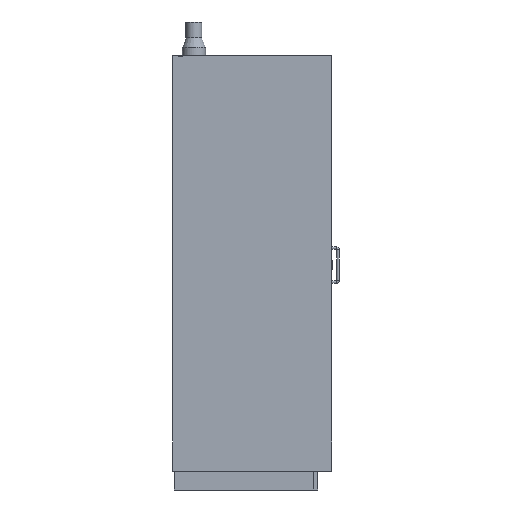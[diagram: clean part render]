
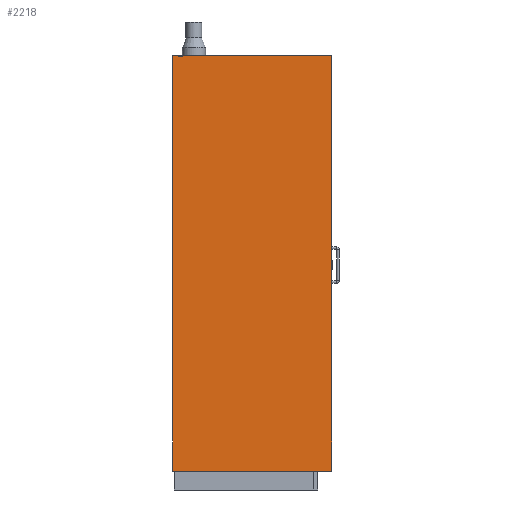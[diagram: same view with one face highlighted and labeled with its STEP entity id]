
A CAD part, left-side view. The second image highlights one B-rep face of the part: STEP entity #2218.
In plain terms, the highlighted planar face has unit normal (-1, 0, 0).
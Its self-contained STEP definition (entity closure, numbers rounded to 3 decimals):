
#111=LINE('',#3023,#291);
#115=LINE('',#3032,#295);
#147=LINE('',#3107,#327);
#148=LINE('',#3109,#328);
#169=LINE('',#3150,#349);
#171=LINE('',#3154,#351);
#172=LINE('',#3156,#352);
#173=LINE('',#3157,#353);
#291=VECTOR('',#2582,1000.);
#295=VECTOR('',#2588,1000.);
#327=VECTOR('',#2658,1000.);
#328=VECTOR('',#2661,1000.);
#349=VECTOR('',#2700,1000.);
#351=VECTOR('',#2704,1000.);
#352=VECTOR('',#2705,1000.);
#353=VECTOR('',#2706,1000.);
#707=ORIENTED_EDGE('',*,*,#991,.F.);
#708=ORIENTED_EDGE('',*,*,#931,.T.);
#709=ORIENTED_EDGE('',*,*,#967,.T.);
#710=ORIENTED_EDGE('',*,*,#992,.F.);
#711=ORIENTED_EDGE('',*,*,#968,.F.);
#712=ORIENTED_EDGE('',*,*,#927,.F.);
#713=ORIENTED_EDGE('',*,*,#989,.F.);
#714=ORIENTED_EDGE('',*,*,#993,.F.);
#927=EDGE_CURVE('',#1112,#1113,#111,.T.);
#931=EDGE_CURVE('',#1116,#1117,#115,.T.);
#967=EDGE_CURVE('',#1117,#1139,#147,.T.);
#968=EDGE_CURVE('',#1113,#1140,#148,.T.);
#989=EDGE_CURVE('',#1151,#1112,#169,.T.);
#991=EDGE_CURVE('',#1116,#1152,#171,.T.);
#992=EDGE_CURVE('',#1140,#1139,#172,.T.);
#993=EDGE_CURVE('',#1152,#1151,#173,.T.);
#1112=VERTEX_POINT('',#3024);
#1113=VERTEX_POINT('',#3025);
#1116=VERTEX_POINT('',#3033);
#1117=VERTEX_POINT('',#3034);
#1139=VERTEX_POINT('',#3106);
#1140=VERTEX_POINT('',#3110);
#1151=VERTEX_POINT('',#3151);
#1152=VERTEX_POINT('',#3155);
#1299=EDGE_LOOP('',(#707,#708,#709,#710,#711,#712,#713,#714));
#1415=FACE_BOUND('',#1299,.T.);
#1500=PLANE('',#2335);
#2218=ADVANCED_FACE('',(#1415),#1500,.F.);
#2335=AXIS2_PLACEMENT_3D('',#3153,#2702,#2703);
#2582=DIRECTION('',(0.,1.,0.));
#2588=DIRECTION('',(0.,1.,0.));
#2658=DIRECTION('',(0.,0.,1.));
#2661=DIRECTION('',(0.,0.,1.));
#2700=DIRECTION('',(0.,0.,-1.));
#2702=DIRECTION('',(1.,0.,0.));
#2703=DIRECTION('',(0.,0.,-1.));
#2704=DIRECTION('',(0.,0.,1.));
#2705=DIRECTION('',(0.,-1.,0.));
#2706=DIRECTION('',(0.,-1.,0.));
#3023=CARTESIAN_POINT('',(600.,0.,8.));
#3024=CARTESIAN_POINT('',(600.,0.,8.));
#3025=CARTESIAN_POINT('',(600.,747.,8.));
#3032=CARTESIAN_POINT('',(600.,0.,1954.5));
#3033=CARTESIAN_POINT('',(600.,699.,1954.5));
#3034=CARTESIAN_POINT('',(600.,718.,1954.5));
#3106=CARTESIAN_POINT('',(600.,718.,1956.));
#3107=CARTESIAN_POINT('',(600.,718.,1954.5));
#3109=CARTESIAN_POINT('',(600.,747.,0.));
#3110=CARTESIAN_POINT('',(600.,747.,1956.));
#3150=CARTESIAN_POINT('',(600.,0.,1956.));
#3151=CARTESIAN_POINT('',(600.,0.,1956.));
#3153=CARTESIAN_POINT('',(600.,0.,0.));
#3154=CARTESIAN_POINT('',(600.,699.,1954.5));
#3155=CARTESIAN_POINT('',(600.,699.,1956.));
#3156=CARTESIAN_POINT('',(600.,612.,1956.));
#3157=CARTESIAN_POINT('',(600.,612.,1956.));
